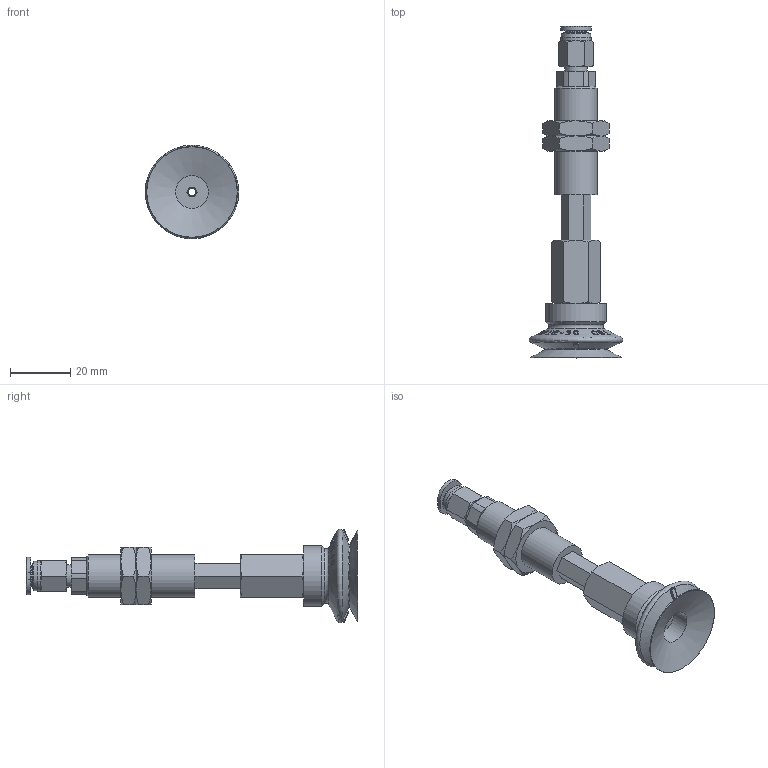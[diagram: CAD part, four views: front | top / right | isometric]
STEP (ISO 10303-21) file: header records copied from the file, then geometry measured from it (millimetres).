
FILE_DESCRIPTION(('STEP AP214'),'1');
FILE_NAME('-O.stp','2026-01-21T06:28:19',(' '),(' '),'Spatial InterOp 3D',' ',' ');
FILE_SCHEMA(('AUTOMOTIVE_DESIGN { 1 0 10303 214 1 1 1 1 }'));
Length unit declared in the file: millimetre
Products named in the file (8): BNABPJTH-30-15-※-O; PC-C_06-M5; ADAPTER; NAPJTH-30-15-MBODY; BPJG-30-※; Adapter-30-NAPJ; NAPJH-30-15-NUT; NAPJTH-30-15-FBODY
Assembly tree (8 placements, depth 2):
  BNABPJTH-30-15-※-O
    PC-C_06-M5
    ADAPTER
    NAPJTH-30-15-MBODY
    BPJG-30-※
    Adapter-30-NAPJ
    NAPJH-30-15-NUT  x2
    NAPJTH-30-15-FBODY
Bounding box: 30.99 x 109.98 x 30.99 mm (x, y, z)
Volume: 17749.6 mm3; surface area: 13860.3 mm2
Topology: 7 solids, 10 shells, 831 faces, 2273 edges, 1488 vertices
Faces by surface type: plane 696, cone 83, cylinder 36, torus 9, bspline 4, revolution 3
Full cylindrical faces by diameter (mm): 3 x3, 4 x2, 4.134 x1, 4.917 x1, 5 x1, 5.8 x1, 6 x1, 7 x1, 7.4 x1, 8.2 x1, 10 x1, 10.8 x1, 11 x1, 13.188 x2, 14 x1, 20 x1
Entity records: 33148 total; most frequent: CARTESIAN_POINT 8291, ORIENTED_EDGE 4350, DIRECTION 2820, EDGE_CURVE 2177, VERTEX_POINT 1454, B_SPLINE_CURVE_WITH_KNOTS 1093, AXIS2_PLACEMENT_3D 945, LINE 927
